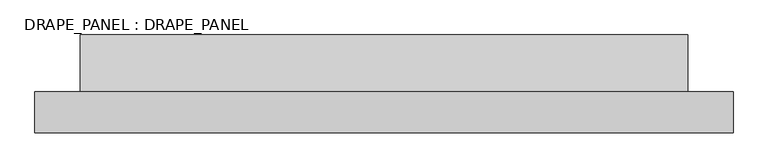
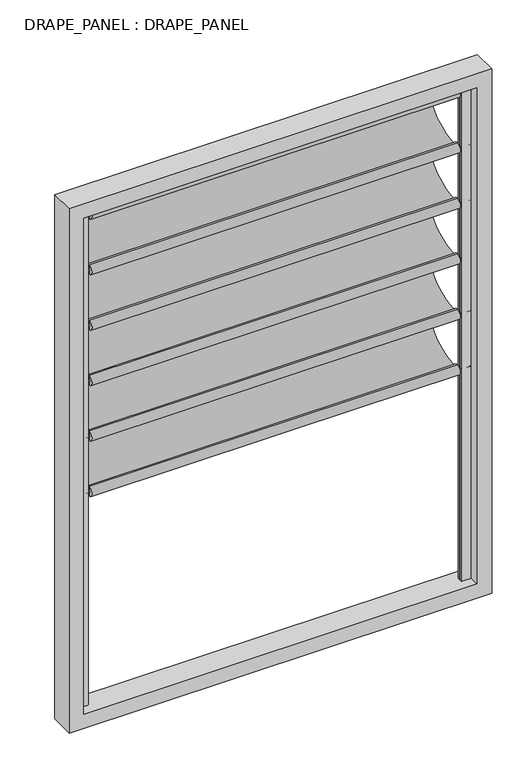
"""IFC4 building model written with IfcOpenShell, lengths in millimetres: plate geometry, DRAPE_PANEL : DRAPE_PANEL."""

import ifcopenshell
import ifcopenshell.guid

model = None  # the IFC model being written
_history = None  # IfcOwnerHistory: only IFC2X3 demands one
_inside = {}  # id of a spatial element -> (the spatial element, [elements in it])
_under = {}  # id of a project, library or spatial element -> (it, [spatial elements below it])
_declared = {}  # id of a project -> (the project, [libraries it declares])
_typed = {}  # id of a type object -> (the type object, [elements of that type])
_made_of = {}  # id of a material, layer set ... -> (it, [elements and type objects made of it])


def new_model(schema):
    """Start an empty IFC model of exactly this schema.

    Asked for "IFC4X3", IfcOpenShell would pick the latest addendum, in which some entities
    have other attributes; the version numbers below select the first issue.
    IFC2X3 requires an IfcOwnerHistory on every rooted entity: one is made here for all.
    """
    global model, _history
    if schema == "IFC4X3":
        model = ifcopenshell.file(schema_version=(4, 3, 0, 0))
    else:
        model = ifcopenshell.file(schema=schema)
    _inside.clear()
    _under.clear()
    _declared.clear()
    _typed.clear()
    _made_of.clear()
    _history = None
    if model.schema == "IFC2X3":
        org = make("IfcOrganization", Name="unknown")
        user = make(
            "IfcPersonAndOrganization",
            ThePerson=make("IfcPerson", FamilyName="unknown"),
            TheOrganization=org,
        )
        app = make(
            "IfcApplication",
            ApplicationDeveloper=org,
            Version="unknown",
            ApplicationFullName="unknown",
            ApplicationIdentifier="unknown",
        )
        _history = make(
            "IfcOwnerHistory",
            OwningUser=user,
            OwningApplication=app,
            ChangeAction="ADDED",
            CreationDate=0,
        )
    return model


def make(cls, **values):
    """One entity of the class cls with the attributes given. An attribute that is None is left unset."""
    return model.create_entity(
        cls, **{name: value for name, value in values.items() if value is not None}
    )


def rooted(cls, **values):
    """An entity with a GlobalId (a new one), such as an element, a storey or a relation."""
    return make(cls, GlobalId=ifcopenshell.guid.new(), OwnerHistory=_history, **values)


def si_unit(unit_type, name, prefix=None):
    """IfcSIUnit, for example si_unit("LENGTHUNIT", "METRE", prefix="MILLI")."""
    return make("IfcSIUnit", UnitType=unit_type, Prefix=prefix, Name=name)


def assignment(units):
    """IfcUnitAssignment: the units of a project."""
    return None if units is None else make("IfcUnitAssignment", Units=units)


def point(xyz):
    """IfcCartesianPoint."""
    return None if xyz is None else make("IfcCartesianPoint", Coordinates=xyz)


def direction(xyz):
    """IfcDirection."""
    return None if xyz is None else make("IfcDirection", DirectionRatios=xyz)


def frame(location, z_axis=None, x_axis=None):
    """IfcAxis2Placement3D, a coordinate frame: its origin and axes. An axis left out is left unset."""
    return make(
        "IfcAxis2Placement3D",
        Location=point(location),
        Axis=direction(z_axis),
        RefDirection=direction(x_axis),
    )


def origin():
    """The frame at (0, 0, 0) with its axes left unset."""
    return frame((0.0, 0.0, 0.0))


def place(relative_to, where):
    """IfcLocalPlacement: puts the frame where relative to a parent placement (None: the world)."""
    return make(
        "IfcLocalPlacement", PlacementRelTo=relative_to, RelativePlacement=where
    )


def context(
    kind, dimensions, precision=None, world=None, true_north=None, identifier=None
):
    """IfcGeometricRepresentationContext, for example the 3D "Model" context."""
    return make(
        "IfcGeometricRepresentationContext",
        ContextIdentifier=identifier,
        ContextType=kind,
        CoordinateSpaceDimension=dimensions,
        Precision=precision,
        WorldCoordinateSystem=world,
        TrueNorth=true_north,
    )


def project(units=None, contexts=None):
    """IfcProject with its units and contexts."""
    return rooted(
        "IfcProject",
        Name="project",
        RepresentationContexts=contexts,
        UnitsInContext=assignment(units),
    )


def spatial(cls, under=None, at=None, **own):
    """A site, building, storey or space (cls), placed at a placement, below another one or the project."""
    s = rooted(cls, ObjectPlacement=at, **own)
    if under is not None:
        _under.setdefault(under.id(), (under, []))[1].append(s)
    return s


def polyline(points):
    """IfcPolyline through the points."""
    return make("IfcPolyline", Points=[point(p) for p in points])


def circle_curve(where, radius):
    """IfcCircle in the frame where."""
    return make("IfcCircle", Position=where, Radius=radius)


def ellipse_curve(where, semi_axis1, semi_axis2):
    """IfcEllipse in the frame where."""
    return make(
        "IfcEllipse", Position=where, SemiAxis1=semi_axis1, SemiAxis2=semi_axis2
    )


def trimmed(basis, trim1, trim2, sense, master):
    """IfcTrimmedCurve: the piece of a basis curve between two trims."""
    return make(
        "IfcTrimmedCurve",
        BasisCurve=basis,
        Trim1=trim1,
        Trim2=trim2,
        SenseAgreement=sense,
        MasterRepresentation=master,
    )


def outline(outer, holes=None, kind="AREA"):
    """IfcArbitraryClosedProfileDef: a profile drawn as a closed curve; with holes, ...WithVoids."""
    if holes is None:
        return make("IfcArbitraryClosedProfileDef", ProfileType=kind, OuterCurve=outer)
    return make(
        "IfcArbitraryProfileDefWithVoids",
        ProfileType=kind,
        OuterCurve=outer,
        InnerCurves=holes,
    )


def extrude(swept, where, along, depth):
    """IfcExtrudedAreaSolid: the profile swept, set in the frame where, extruded along a direction by depth."""
    return make(
        "IfcExtrudedAreaSolid",
        SweptArea=swept,
        Position=where,
        ExtrudedDirection=direction(along),
        Depth=depth,
    )


def shape(context_of_items, identifier, shape_type, items):
    """IfcShapeRepresentation: the items that make up one representation, for example the "Body"."""
    return make(
        "IfcShapeRepresentation",
        ContextOfItems=context_of_items,
        RepresentationIdentifier=identifier,
        RepresentationType=shape_type,
        Items=items,
    )


def source(mapping_origin, context_of_items, identifier, shape_type, items):
    """IfcRepresentationMap: a shape defined once, which mapped items show again and again."""
    return make(
        "IfcRepresentationMap",
        MappingOrigin=mapping_origin,
        MappedRepresentation=shape(context_of_items, identifier, shape_type, items),
    )


def transform(
    local_origin,
    x_axis=None,
    y_axis=None,
    z_axis=None,
    scale=None,
    scale2=None,
    scale3=None,
    uniform=True,
):
    """IfcCartesianTransformationOperator3D, or its non-uniform kind. x_axis, y_axis, z_axis: its Axis1, 2, 3."""
    if uniform:
        return make(
            "IfcCartesianTransformationOperator3D",
            Axis1=direction(x_axis),
            Axis2=direction(y_axis),
            LocalOrigin=point(local_origin),
            Scale=scale,
            Axis3=direction(z_axis),
        )
    return make(
        "IfcCartesianTransformationOperator3DnonUniform",
        Axis1=direction(x_axis),
        Axis2=direction(y_axis),
        LocalOrigin=point(local_origin),
        Scale=scale,
        Axis3=direction(z_axis),
        Scale2=scale2,
        Scale3=scale3,
    )


def mapped(mapping_source, mapping_target):
    """IfcMappedItem: shows the shape of a source again, moved by a transform."""
    return make(
        "IfcMappedItem", MappingSource=mapping_source, MappingTarget=mapping_target
    )


def made_of(thing, what):
    """Note that an element or type object is made of a material, layer set ...; save() writes the relation."""
    if what is not None:
        _made_of.setdefault(what.id(), (what, []))[1].append(thing)
    return thing


def element(
    cls,
    number,
    at=None,
    inside=None,
    cuts=None,
    type_object=None,
    material=None,
    context=None,
    identifier="Body",
    shape_type=None,
    held_by="IfcProductDefinitionShape",
    body=None,
    shapes=None,
    **own,
):
    """One element of the class cls, such as IfcWall. Its Tag is "e" and its number.

    at: its placement. inside: the storey or other place that contains it. cuts: it is an
    opening in that element (IfcRelVoidsElement). A single representation is given by context,
    identifier, shape_type and body (its items); several are given by shapes. held_by: the class
    of the entity that holds the representations. save() writes the other relations.
    """
    e = rooted(cls, Tag="e%d" % number, ObjectPlacement=at, **own)
    if body is not None:
        shapes = [shape(context, identifier, shape_type, body)]
    if shapes is not None:
        e.Representation = make(held_by, Representations=shapes)
    if inside is not None:
        _inside.setdefault(inside.id(), (inside, []))[1].append(e)
    if cuts is not None:
        rooted(
            "IfcRelVoidsElement", RelatingBuildingElement=cuts, RelatedOpeningElement=e
        )
    if type_object is not None:
        _typed.setdefault(type_object.id(), (type_object, []))[1].append(e)
    return made_of(e, material)


def aggregate(whole, parts):
    """IfcRelAggregates: a whole, such as a stair, and the parts it consists of."""
    return rooted("IfcRelAggregates", RelatingObject=whole, RelatedObjects=parts)


def save(model, path):
    """Write the relations noted so far, then the file.

    IfcRelAggregates (storeys below a building ...), IfcRelContainedInSpatialStructure (elements
    in a storey), IfcRelDefinesByType, IfcRelAssociatesMaterial and IfcRelDeclares: one each for
    every whole, place, type object, material and project.
    """
    for whole, parts in _under.values():
        aggregate(whole, parts)
    for where, things in _inside.values():
        rooted(
            "IfcRelContainedInSpatialStructure",
            RelatedElements=things,
            RelatingStructure=where,
        )
    for kind, things in _typed.values():
        rooted("IfcRelDefinesByType", RelatedObjects=things, RelatingType=kind)
    for what, things in _made_of.values():
        rooted("IfcRelAssociatesMaterial", RelatedObjects=things, RelatingMaterial=what)
    for by, libraries in _declared.values():
        rooted("IfcRelDeclares", RelatingContext=by, RelatedDefinitions=libraries)
    model.write(path)


def plane_surface(at):
    """IfcPlane: the flat surface through the origin of the frame at, square to its z axis."""
    return make("IfcPlane", Position=at)


def cylinder_surface(at, radius):
    """IfcCylindricalSurface: all points at the distance radius from the z axis of the frame at."""
    return make("IfcCylindricalSurface", Position=at, Radius=radius)


def extruded_surface(curve, direction_of_extrusion, depth):
    """IfcSurfaceOfLinearExtrusion: the curve pushed along a direction by depth."""
    return make(
        "IfcSurfaceOfLinearExtrusion",
        SweptCurve=make("IfcArbitraryOpenProfileDef", ProfileType="CURVE", Curve=curve),
        ExtrudedDirection=direction(direction_of_extrusion),
        Depth=depth,
    )


def advanced_brep(points, edges, surfaces, faces):
    """IfcAdvancedBrep: a solid bounded by faces that lie on surfaces and meet in shared edges.

    An edge is (start, end): straight between two places in points (the first is 0);
    or (start, end, curve); or (start, end, curve, False) where it runs against its curve.
    A face is (place in surfaces, loops), or (place, loops, False) where it looks against
    its surface's normal. A loop lists edges by number (the first is 1), with a minus sign
    where the edge is run from its end to its start. The first loop is the outer one.
    """
    corners = [point(p) for p in points]
    vertices = [make("IfcVertexPoint", VertexGeometry=c) for c in corners]
    made = []
    for start, end, *more in edges:
        made.append(
            make(
                "IfcEdgeCurve",
                EdgeStart=vertices[start],
                EdgeEnd=vertices[end],
                EdgeGeometry=more[0] if more else make("IfcPolyline", Points=[corners[start], corners[end]]),
                SameSense=more[1] if len(more) > 1 else True,
            )
        )
    hull = []
    for where, loops, *sense in faces:
        bounds = []
        for j, loop in enumerate(loops):
            ring = [make("IfcOrientedEdge", EdgeElement=made[abs(k) - 1], Orientation=k > 0) for k in loop]
            bounds.append(
                make(
                    "IfcFaceOuterBound" if j == 0 else "IfcFaceBound",
                    Bound=make("IfcEdgeLoop", EdgeList=ring),
                    Orientation=True,
                )
            )
        hull.append(make("IfcAdvancedFace", Bounds=bounds, FaceSurface=surfaces[where], SameSense=sense[0] if sense else True))
    return make("IfcAdvancedBrep", Outer=make("IfcClosedShell", CfsFaces=hull))


def drape_panel_drape_panel_99658d57(model_context):
    return source(origin(), model_context, "Body", "SolidModel", [
        advanced_brep(
        [(-790.0, 0.0, 1431.5019792), (-790.0, 0.0, 1436.5019792), (-790.0, 0.0, 1426.5019792), (790.0, 0.0, 1426.5019792), (790.0, 0.0, 1436.5019792), (790.0, 0.0, 1431.5019792), (740.0, 0.0, 1426.5019792), (740.0, 0.0, 1436.5019792), (740.0, 0.0, 1411.5019792), (740.0, 0.0, 1451.5019792), (-740.0, 0.0, 1411.5019792), (-740.0, 0.0, 1451.5019792), (-740.0, 0.0, 1426.5019792), (-740.0, 0.0, 1436.5019792)],
        [
            (0, 1),
            (1, 2, circle_curve(frame((-790.0, 0.0, 1431.5019792), z_axis=(-1.0, 0.0, 0.0), x_axis=(0.0, 0.0, 1.0)), 5.0)),
            (2, 0),
            (2, 1, circle_curve(frame((-790.0, 0.0, 1431.5019792), z_axis=(-1.0, 0.0, 0.0), x_axis=(0.0, 0.0, 1.0)), 5.0)),
            (3, 4, circle_curve(frame((790.0, 0.0, 1431.5019792), z_axis=(1.0, 0.0, 0.0), x_axis=(0.0, 0.0, 1.0)), 5.0)),
            (4, 5),
            (5, 3),
            (4, 3, circle_curve(frame((790.0, 0.0, 1431.5019792), z_axis=(1.0, 0.0, 0.0), x_axis=(0.0, 0.0, 1.0)), 5.0)),
            (6, 7, circle_curve(frame((740.0, 0.0, 1431.5019792), z_axis=(1.0, 0.0, 0.0), x_axis=(0.0, 0.0, 1.0)), 5.0)),
            (7, 4),
            (3, 6),
            (7, 6, circle_curve(frame((740.0, 0.0, 1431.5019792), z_axis=(1.0, 0.0, 0.0), x_axis=(0.0, 0.0, 1.0)), 5.0)),
            (8, 9, circle_curve(frame((740.0, 0.0, 1431.5019792), z_axis=(1.0, 0.0, 0.0), x_axis=(0.0, 0.0, 1.0)), 20.0)),
            (9, 7),
            (6, 8),
            (9, 8, circle_curve(frame((740.0, 0.0, 1431.5019792), z_axis=(1.0, 0.0, 0.0), x_axis=(0.0, 0.0, 1.0)), 20.0)),
            (10, 11, circle_curve(frame((-740.0, 0.0, 1431.5019792), z_axis=(1.0, 0.0, 0.0), x_axis=(0.0, 0.0, 1.0)), 20.0)),
            (11, 9),
            (8, 10),
            (11, 10, circle_curve(frame((-740.0, 0.0, 1431.5019792), z_axis=(1.0, 0.0, 0.0), x_axis=(0.0, 0.0, 1.0)), 20.0)),
            (12, 13, circle_curve(frame((-740.0, 0.0, 1431.5019792), z_axis=(1.0, 0.0, 0.0), x_axis=(0.0, 0.0, 1.0)), 5.0)),
            (13, 11),
            (10, 12),
            (13, 12, circle_curve(frame((-740.0, 0.0, 1431.5019792), z_axis=(1.0, 0.0, 0.0), x_axis=(0.0, 0.0, 1.0)), 5.0)),
            (1, 13),
            (12, 2),
        ],
        [
            plane_surface(frame((-790.0, 0.0, 1431.5019792), z_axis=(-1.0, 0.0, 0.0), x_axis=(0.0, 0.0, 1.0))),
            plane_surface(frame((790.0, 0.0, 1431.5019792), z_axis=(1.0, 0.0, 0.0), x_axis=(0.0, 0.0, 1.0))),
            cylinder_surface(frame((6238.8752301, 0.0, 1431.5019792), z_axis=(-1.0, 0.0, 0.0), x_axis=(0.0, 0.0, 1.0)), 5.0),
            plane_surface(frame((740.0, 0.0, 1431.5019792), z_axis=(1.0, 0.0, 0.0), x_axis=(0.0, 0.0, 1.0))),
            cylinder_surface(frame((6238.8752301, 0.0, 1431.5019792), z_axis=(-1.0, 0.0, 0.0), x_axis=(0.0, 0.0, 1.0)), 20.0),
            plane_surface(frame((-740.0, 0.0, 1431.5019792), z_axis=(-1.0, 0.0, 0.0), x_axis=(0.0, 0.0, 1.0))),
        ],
        [
            (0, [[1, 2, 3]]),
            (0, [[-3, 4, -1]]),
            (1, [[5, 6, 7]]),
            (1, [[8, -7, -6]]),
            (2, [[9, 10, -5, 11]]),
            (2, [[12, -11, -8, -10]]),
            (3, [[13, 14, -9, 15]]),
            (3, [[16, -15, -12, -14]]),
            (4, [[17, 18, -13, 19]]),
            (4, [[20, -19, -16, -18]]),
            (5, [[21, 22, -17, 23]]),
            (5, [[24, -23, -20, -22]]),
            (2, [[-2, 25, -21, 26]]),
            (2, [[-4, -26, -24, -25]]),
        ],
    ),
        advanced_brep(
        [(740.0, 0.0, 1431.5019792), (740.0, 0.0, 1428.5019792), (740.0, 0.0, 1198.7509896), (740.0, 0.0, 1195.7509896), (-740.0, 0.0, 1431.5019792), (-740.0, 0.0, 1195.7509896), (-740.0, 0.0, 1198.7509896), (-740.0, 0.0, 1428.5019792)],
        [
            (0, 1),
            (1, 2, ellipse_curve(frame((740.0, 0.0, 1313.6264844), z_axis=(-1.0, 0.0, 0.0), x_axis=(0.0, -1.0, 0.0)), 186.0273468, 114.8754948)),
            (2, 3),
            (3, 0, ellipse_curve(frame((740.0, 0.0, 1313.6264844), z_axis=(1.0, 0.0, 0.0), x_axis=(0.0, 1.0, 0.0)), 189.0273468, 117.8754948)),
            (4, 5, ellipse_curve(frame((-740.0, 0.0, 1313.6264844), z_axis=(-1.0, 0.0, 0.0), x_axis=(0.0, 0.0, -1.0)), 117.8754948, 189.0273468)),
            (5, 6),
            (6, 7, ellipse_curve(frame((-740.0, 0.0, 1313.6264844), z_axis=(1.0, 0.0, 0.0), x_axis=(0.0, 0.0, -1.0)), 114.8754948, 186.0273468)),
            (7, 4),
            (0, 4),
            (7, 1),
            (6, 2),
            (5, 3),
        ],
        [
            plane_surface(frame((740.0, 0.0, 1431.5019792), z_axis=(1.0, 0.0, 0.0), x_axis=(0.0, -1.4831486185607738e-12, -1.0))),
            plane_surface(frame((-740.0, 0.0, 1431.5019792), z_axis=(-1.0, 0.0, 0.0), x_axis=(0.0, 1.4831486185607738e-12, 1.0))),
            plane_surface(frame((740.0, 0.0, 1431.5019792), z_axis=(0.0, -1.0, 1.4831486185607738e-12), x_axis=(-1.0, 0.0, 0.0))),
            extruded_surface(trimmed(ellipse_curve(frame((-2220.0, 0.0, 1313.6264844), z_axis=(-1.0, 0.0, 0.0), x_axis=(0.0, 0.0, -1.0)), 114.8754948, 186.0273468), [point((-2220.0, 0.0, 1428.5019792))], [point((-2220.0, 0.0, 1198.7509896))], True, "CARTESIAN"), (1480.0, 0.0, 0.0), 1480.0),
            plane_surface(frame((740.0, 0.0, 1198.7509896), z_axis=(0.0, -1.0, 0.0), x_axis=(-1.0, 0.0, 0.0))),
            extruded_surface(trimmed(ellipse_curve(frame((-2220.0, 0.0, 1313.6264844), z_axis=(1.0, 0.0, 0.0), x_axis=(0.0, 0.0, -1.0)), 117.8754948, 189.0273468), [point((-2220.0, 0.0, 1195.7509896))], [point((-2220.0, 0.0, 1431.5019792))], True, "CARTESIAN"), (1480.0, 0.0, 0.0), 1480.0),
        ],
        [
            (0, [[1, 2, 3, 4]]),
            (1, [[5, 6, 7, 8]]),
            (2, [[-1, 9, -8, 10]]),
            (3, [[-2, -10, -7, 11]]),
            (4, [[-3, -11, -6, 12]]),
            (5, [[-4, -12, -5, -9]]),
        ],
    ),
        advanced_brep(
        [(-790.0, 0.0, 1667.2529688), (-790.0, 0.0, 1672.2529688), (-790.0, 0.0, 1662.2529688), (790.0, 0.0, 1662.2529688), (790.0, 0.0, 1672.2529688), (790.0, 0.0, 1667.2529688), (740.0, 0.0, 1662.2529688), (740.0, 0.0, 1672.2529688), (740.0, 0.0, 1647.2529688), (740.0, 0.0, 1687.2529688), (-740.0, 0.0, 1647.2529688), (-740.0, 0.0, 1687.2529688), (-740.0, 0.0, 1662.2529688), (-740.0, 0.0, 1672.2529688)],
        [
            (0, 1),
            (1, 2, circle_curve(frame((-790.0, 0.0, 1667.2529688), z_axis=(-1.0, 0.0, 0.0), x_axis=(0.0, 0.0, 1.0)), 5.0)),
            (2, 0),
            (2, 1, circle_curve(frame((-790.0, 0.0, 1667.2529688), z_axis=(-1.0, 0.0, 0.0), x_axis=(0.0, 0.0, 1.0)), 5.0)),
            (3, 4, circle_curve(frame((790.0, 0.0, 1667.2529688), z_axis=(1.0, 0.0, 0.0), x_axis=(0.0, 0.0, 1.0)), 5.0)),
            (4, 5),
            (5, 3),
            (4, 3, circle_curve(frame((790.0, 0.0, 1667.2529688), z_axis=(1.0, 0.0, 0.0), x_axis=(0.0, 0.0, 1.0)), 5.0)),
            (6, 7, circle_curve(frame((740.0, 0.0, 1667.2529688), z_axis=(1.0, 0.0, 0.0), x_axis=(0.0, 0.0, 1.0)), 5.0)),
            (7, 4),
            (3, 6),
            (7, 6, circle_curve(frame((740.0, 0.0, 1667.2529688), z_axis=(1.0, 0.0, 0.0), x_axis=(0.0, 0.0, 1.0)), 5.0)),
            (8, 9, circle_curve(frame((740.0, 0.0, 1667.2529688), z_axis=(1.0, 0.0, 0.0), x_axis=(0.0, 0.0, 1.0)), 20.0)),
            (9, 7),
            (6, 8),
            (9, 8, circle_curve(frame((740.0, 0.0, 1667.2529688), z_axis=(1.0, 0.0, 0.0), x_axis=(0.0, 0.0, 1.0)), 20.0)),
            (10, 11, circle_curve(frame((-740.0, 0.0, 1667.2529688), z_axis=(1.0, 0.0, 0.0), x_axis=(0.0, 0.0, 1.0)), 20.0)),
            (11, 9),
            (8, 10),
            (11, 10, circle_curve(frame((-740.0, 0.0, 1667.2529688), z_axis=(1.0, 0.0, 0.0), x_axis=(0.0, 0.0, 1.0)), 20.0)),
            (12, 13, circle_curve(frame((-740.0, 0.0, 1667.2529688), z_axis=(1.0, 0.0, 0.0), x_axis=(0.0, 0.0, 1.0)), 5.0)),
            (13, 11),
            (10, 12),
            (13, 12, circle_curve(frame((-740.0, 0.0, 1667.2529688), z_axis=(1.0, 0.0, 0.0), x_axis=(0.0, 0.0, 1.0)), 5.0)),
            (1, 13),
            (12, 2),
        ],
        [
            plane_surface(frame((-790.0, 0.0, 1667.2529688), z_axis=(-1.0, 0.0, 0.0), x_axis=(0.0, 0.0, 1.0))),
            plane_surface(frame((790.0, 0.0, 1667.2529688), z_axis=(1.0, 0.0, 0.0), x_axis=(0.0, 0.0, 1.0))),
            cylinder_surface(frame((6238.8752301, 0.0, 1667.2529688), z_axis=(-1.0, 0.0, 0.0), x_axis=(0.0, 0.0, 1.0)), 5.0),
            plane_surface(frame((740.0, 0.0, 1667.2529688), z_axis=(1.0, 0.0, 0.0), x_axis=(0.0, 0.0, 1.0))),
            cylinder_surface(frame((6238.8752301, 0.0, 1667.2529688), z_axis=(-1.0, 0.0, 0.0), x_axis=(0.0, 0.0, 1.0)), 20.0),
            plane_surface(frame((-740.0, 0.0, 1667.2529688), z_axis=(-1.0, 0.0, 0.0), x_axis=(0.0, 0.0, 1.0))),
        ],
        [
            (0, [[1, 2, 3]]),
            (0, [[-3, 4, -1]]),
            (1, [[5, 6, 7]]),
            (1, [[8, -7, -6]]),
            (2, [[9, 10, -5, 11]]),
            (2, [[12, -11, -8, -10]]),
            (3, [[13, 14, -9, 15]]),
            (3, [[16, -15, -12, -14]]),
            (4, [[17, 18, -13, 19]]),
            (4, [[20, -19, -16, -18]]),
            (5, [[21, 22, -17, 23]]),
            (5, [[24, -23, -20, -22]]),
            (2, [[-2, 25, -21, 26]]),
            (2, [[-4, -26, -24, -25]]),
        ],
    ),
        advanced_brep(
        [(740.0, 0.0, 1667.2529688), (740.0, 0.0, 1664.2529688), (740.0, 0.0, 1434.5019792), (740.0, 0.0, 1431.5019792), (-740.0, 0.0, 1667.2529688), (-740.0, 0.0, 1431.5019792), (-740.0, 0.0, 1434.5019792), (-740.0, 0.0, 1664.2529688)],
        [
            (0, 1),
            (1, 2, ellipse_curve(frame((740.0, 0.0, 1549.377474), z_axis=(-1.0, 0.0, 0.0), x_axis=(0.0, -1.0, 0.0)), 186.0273468, 114.8754948)),
            (2, 3),
            (3, 0, ellipse_curve(frame((740.0, 0.0, 1549.377474), z_axis=(1.0, 0.0, 0.0), x_axis=(0.0, 1.0, 0.0)), 189.0273468, 117.8754948)),
            (4, 5, ellipse_curve(frame((-740.0, 0.0, 1549.377474), z_axis=(-1.0, 0.0, 0.0), x_axis=(0.0, 0.0, -1.0)), 117.8754948, 189.0273468)),
            (5, 6),
            (6, 7, ellipse_curve(frame((-740.0, 0.0, 1549.377474), z_axis=(1.0, 0.0, 0.0), x_axis=(0.0, 0.0, -1.0)), 114.8754948, 186.0273468)),
            (7, 4),
            (0, 4),
            (7, 1),
            (6, 2),
            (5, 3),
        ],
        [
            plane_surface(frame((740.0, 0.0, 1667.2529688), z_axis=(1.0, 0.0, 0.0), x_axis=(0.0, -1.4831486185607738e-12, -1.0))),
            plane_surface(frame((-740.0, 0.0, 1667.2529688), z_axis=(-1.0, 0.0, 0.0), x_axis=(0.0, 1.4831486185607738e-12, 1.0))),
            plane_surface(frame((740.0, 0.0, 1667.2529688), z_axis=(0.0, -1.0, 1.4831486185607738e-12), x_axis=(-1.0, 0.0, 0.0))),
            extruded_surface(trimmed(ellipse_curve(frame((-2220.0, 0.0, 1549.377474), z_axis=(-1.0, 0.0, 0.0), x_axis=(0.0, 0.0, -1.0)), 114.8754948, 186.0273468), [point((-2220.0, 0.0, 1664.2529688))], [point((-2220.0, 0.0, 1434.5019792))], True, "CARTESIAN"), (1480.0, 0.0, 0.0), 1480.0),
            plane_surface(frame((740.0, 0.0, 1434.5019792), z_axis=(0.0, -1.0, 0.0), x_axis=(-1.0, 0.0, 0.0))),
            extruded_surface(trimmed(ellipse_curve(frame((-2220.0, 0.0, 1549.377474), z_axis=(1.0, 0.0, 0.0), x_axis=(0.0, 0.0, -1.0)), 117.8754948, 189.0273468), [point((-2220.0, 0.0, 1431.5019792))], [point((-2220.0, 0.0, 1667.2529688))], True, "CARTESIAN"), (1480.0, 0.0, 0.0), 1480.0),
        ],
        [
            (0, [[1, 2, 3, 4]]),
            (1, [[5, 6, 7, 8]]),
            (2, [[-1, 9, -8, 10]]),
            (3, [[-2, -10, -7, 11]]),
            (4, [[-3, -11, -6, 12]]),
            (5, [[-4, -12, -5, -9]]),
        ],
    ),
        advanced_brep(
        [(-790.0, 0.0, 1903.0039583), (-790.0, 0.0, 1908.0039583), (-790.0, 0.0, 1898.0039583), (790.0, 0.0, 1898.0039583), (790.0, 0.0, 1908.0039583), (790.0, 0.0, 1903.0039583), (740.0, 0.0, 1898.0039583), (740.0, 0.0, 1908.0039583), (740.0, 0.0, 1883.0039583), (740.0, 0.0, 1923.0039583), (-740.0, 0.0, 1883.0039583), (-740.0, 0.0, 1923.0039583), (-740.0, 0.0, 1898.0039583), (-740.0, 0.0, 1908.0039583)],
        [
            (0, 1),
            (1, 2, circle_curve(frame((-790.0, 0.0, 1903.0039583), z_axis=(-1.0, 0.0, 0.0), x_axis=(0.0, 0.0, 1.0)), 5.0)),
            (2, 0),
            (2, 1, circle_curve(frame((-790.0, 0.0, 1903.0039583), z_axis=(-1.0, 0.0, 0.0), x_axis=(0.0, 0.0, 1.0)), 5.0)),
            (3, 4, circle_curve(frame((790.0, 0.0, 1903.0039583), z_axis=(1.0, 0.0, 0.0), x_axis=(0.0, 0.0, 1.0)), 5.0)),
            (4, 5),
            (5, 3),
            (4, 3, circle_curve(frame((790.0, 0.0, 1903.0039583), z_axis=(1.0, 0.0, 0.0), x_axis=(0.0, 0.0, 1.0)), 5.0)),
            (6, 7, circle_curve(frame((740.0, 0.0, 1903.0039583), z_axis=(1.0, 0.0, 0.0), x_axis=(0.0, 0.0, 1.0)), 5.0)),
            (7, 4),
            (3, 6),
            (7, 6, circle_curve(frame((740.0, 0.0, 1903.0039583), z_axis=(1.0, 0.0, 0.0), x_axis=(0.0, 0.0, 1.0)), 5.0)),
            (8, 9, circle_curve(frame((740.0, 0.0, 1903.0039583), z_axis=(1.0, 0.0, 0.0), x_axis=(0.0, 0.0, 1.0)), 20.0)),
            (9, 7),
            (6, 8),
            (9, 8, circle_curve(frame((740.0, 0.0, 1903.0039583), z_axis=(1.0, 0.0, 0.0), x_axis=(0.0, 0.0, 1.0)), 20.0)),
            (10, 11, circle_curve(frame((-740.0, 0.0, 1903.0039583), z_axis=(1.0, 0.0, 0.0), x_axis=(0.0, 0.0, 1.0)), 20.0)),
            (11, 9),
            (8, 10),
            (11, 10, circle_curve(frame((-740.0, 0.0, 1903.0039583), z_axis=(1.0, 0.0, 0.0), x_axis=(0.0, 0.0, 1.0)), 20.0)),
            (12, 13, circle_curve(frame((-740.0, 0.0, 1903.0039583), z_axis=(1.0, 0.0, 0.0), x_axis=(0.0, 0.0, 1.0)), 5.0)),
            (13, 11),
            (10, 12),
            (13, 12, circle_curve(frame((-740.0, 0.0, 1903.0039583), z_axis=(1.0, 0.0, 0.0), x_axis=(0.0, 0.0, 1.0)), 5.0)),
            (1, 13),
            (12, 2),
        ],
        [
            plane_surface(frame((-790.0, 0.0, 1903.0039583), z_axis=(-1.0, 0.0, 0.0), x_axis=(0.0, 0.0, 1.0))),
            plane_surface(frame((790.0, 0.0, 1903.0039583), z_axis=(1.0, 0.0, 0.0), x_axis=(0.0, 0.0, 1.0))),
            cylinder_surface(frame((6238.8752301, 0.0, 1903.0039583), z_axis=(-1.0, 0.0, 0.0), x_axis=(0.0, 0.0, 1.0)), 5.0),
            plane_surface(frame((740.0, 0.0, 1903.0039583), z_axis=(1.0, 0.0, 0.0), x_axis=(0.0, 0.0, 1.0))),
            cylinder_surface(frame((6238.8752301, 0.0, 1903.0039583), z_axis=(-1.0, 0.0, 0.0), x_axis=(0.0, 0.0, 1.0)), 20.0),
            plane_surface(frame((-740.0, 0.0, 1903.0039583), z_axis=(-1.0, 0.0, 0.0), x_axis=(0.0, 0.0, 1.0))),
        ],
        [
            (0, [[1, 2, 3]]),
            (0, [[-3, 4, -1]]),
            (1, [[5, 6, 7]]),
            (1, [[8, -7, -6]]),
            (2, [[9, 10, -5, 11]]),
            (2, [[12, -11, -8, -10]]),
            (3, [[13, 14, -9, 15]]),
            (3, [[16, -15, -12, -14]]),
            (4, [[17, 18, -13, 19]]),
            (4, [[20, -19, -16, -18]]),
            (5, [[21, 22, -17, 23]]),
            (5, [[24, -23, -20, -22]]),
            (2, [[-2, 25, -21, 26]]),
            (2, [[-4, -26, -24, -25]]),
        ],
    ),
        advanced_brep(
        [(740.0, 0.0, 1903.0039583), (740.0, 0.0, 1900.0039583), (740.0, 0.0, 1670.2529688), (740.0, 0.0, 1667.2529688), (-740.0, 0.0, 1903.0039583), (-740.0, 0.0, 1667.2529688), (-740.0, 0.0, 1670.2529687), (-740.0, 0.0, 1900.0039583)],
        [
            (0, 1),
            (1, 2, ellipse_curve(frame((740.0, 0.0, 1785.1284635), z_axis=(-1.0, 0.0, 0.0), x_axis=(0.0, -1.0, 0.0)), 186.0273468, 114.8754948)),
            (2, 3),
            (3, 0, ellipse_curve(frame((740.0, 0.0, 1785.1284635), z_axis=(1.0, 0.0, 0.0), x_axis=(0.0, 1.0, 0.0)), 189.0273468, 117.8754948)),
            (4, 5, ellipse_curve(frame((-740.0, 0.0, 1785.1284635), z_axis=(-1.0, 0.0, 0.0), x_axis=(0.0, 0.0, -1.0)), 117.8754948, 189.0273468)),
            (5, 6),
            (6, 7, ellipse_curve(frame((-740.0, 0.0, 1785.1284635), z_axis=(1.0, 0.0, 0.0), x_axis=(0.0, 0.0, -1.0)), 114.8754948, 186.0273468)),
            (7, 4),
            (0, 4),
            (7, 1),
            (6, 2),
            (5, 3),
        ],
        [
            plane_surface(frame((740.0, 0.0, 1903.0039583), z_axis=(1.0, 0.0, 0.0), x_axis=(0.0, -1.4831486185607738e-12, -1.0))),
            plane_surface(frame((-740.0, 0.0, 1903.0039583), z_axis=(-1.0, 0.0, 0.0), x_axis=(0.0, 1.4831486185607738e-12, 1.0))),
            plane_surface(frame((740.0, 0.0, 1903.0039583), z_axis=(0.0, -1.0, 1.4831486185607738e-12), x_axis=(-1.0, 0.0, 0.0))),
            extruded_surface(trimmed(ellipse_curve(frame((-2220.0, 0.0, 1785.1284635), z_axis=(-1.0, 0.0, 0.0), x_axis=(0.0, 0.0, -1.0)), 114.8754948, 186.0273468), [point((-2220.0, 0.0, 1900.0039583))], [point((-2220.0, 0.0, 1670.2529687))], True, "CARTESIAN"), (1480.0, 0.0, 0.0), 1480.0),
            plane_surface(frame((740.0, 0.0, 1670.2529688), z_axis=(0.0, -1.0, 0.0), x_axis=(-1.0, 0.0, 0.0))),
            extruded_surface(trimmed(ellipse_curve(frame((-2220.0, 0.0, 1785.1284635), z_axis=(1.0, 0.0, 0.0), x_axis=(0.0, 0.0, -1.0)), 117.8754948, 189.0273468), [point((-2220.0, 0.0, 1667.2529688))], [point((-2220.0, 0.0, 1903.0039583))], True, "CARTESIAN"), (1480.0, 0.0, 0.0), 1480.0),
        ],
        [
            (0, [[1, 2, 3, 4]]),
            (1, [[5, 6, 7, 8]]),
            (2, [[-1, 9, -8, 10]]),
            (3, [[-2, -10, -7, 11]]),
            (4, [[-3, -11, -6, 12]]),
            (5, [[-4, -12, -5, -9]]),
        ],
    ),
        advanced_brep(
        [(-790.0, 0.0, 1195.7509896), (-790.0, 0.0, 1200.7509896), (-790.0, 0.0, 1190.7509896), (790.0, 0.0, 1190.7509896), (790.0, 0.0, 1200.7509896), (790.0, 0.0, 1195.7509896), (740.0, 0.0, 1190.7509896), (740.0, 0.0, 1200.7509896), (740.0, 0.0, 1175.7509896), (740.0, 0.0, 1215.7509896), (-740.0, 0.0, 1175.7509896), (-740.0, 0.0, 1215.7509896), (-740.0, 0.0, 1190.7509896), (-740.0, 0.0, 1200.7509896)],
        [
            (0, 1),
            (1, 2, circle_curve(frame((-790.0, 0.0, 1195.7509896), z_axis=(-1.0, 0.0, 0.0), x_axis=(0.0, 0.0, 1.0)), 5.0)),
            (2, 0),
            (2, 1, circle_curve(frame((-790.0, 0.0, 1195.7509896), z_axis=(-1.0, 0.0, 0.0), x_axis=(0.0, 0.0, 1.0)), 5.0)),
            (3, 4, circle_curve(frame((790.0, 0.0, 1195.7509896), z_axis=(1.0, 0.0, 0.0), x_axis=(0.0, 0.0, 1.0)), 5.0)),
            (4, 5),
            (5, 3),
            (4, 3, circle_curve(frame((790.0, 0.0, 1195.7509896), z_axis=(1.0, 0.0, 0.0), x_axis=(0.0, 0.0, 1.0)), 5.0)),
            (6, 7, circle_curve(frame((740.0, 0.0, 1195.7509896), z_axis=(1.0, 0.0, 0.0), x_axis=(0.0, 0.0, 1.0)), 5.0)),
            (7, 4),
            (3, 6),
            (7, 6, circle_curve(frame((740.0, 0.0, 1195.7509896), z_axis=(1.0, 0.0, 0.0), x_axis=(0.0, 0.0, 1.0)), 5.0)),
            (8, 9, circle_curve(frame((740.0, 0.0, 1195.7509896), z_axis=(1.0, 0.0, 0.0), x_axis=(0.0, 0.0, 1.0)), 20.0)),
            (9, 7),
            (6, 8),
            (9, 8, circle_curve(frame((740.0, 0.0, 1195.7509896), z_axis=(1.0, 0.0, 0.0), x_axis=(0.0, 0.0, 1.0)), 20.0)),
            (10, 11, circle_curve(frame((-740.0, 0.0, 1195.7509896), z_axis=(1.0, 0.0, 0.0), x_axis=(0.0, 0.0, 1.0)), 20.0)),
            (11, 9),
            (8, 10),
            (11, 10, circle_curve(frame((-740.0, 0.0, 1195.7509896), z_axis=(1.0, 0.0, 0.0), x_axis=(0.0, 0.0, 1.0)), 20.0)),
            (12, 13, circle_curve(frame((-740.0, 0.0, 1195.7509896), z_axis=(1.0, 0.0, 0.0), x_axis=(0.0, 0.0, 1.0)), 5.0)),
            (13, 11),
            (10, 12),
            (13, 12, circle_curve(frame((-740.0, 0.0, 1195.7509896), z_axis=(1.0, 0.0, 0.0), x_axis=(0.0, 0.0, 1.0)), 5.0)),
            (1, 13),
            (12, 2),
        ],
        [
            plane_surface(frame((-790.0, 0.0, 1195.7509896), z_axis=(-1.0, 0.0, 0.0), x_axis=(0.0, 0.0, 1.0))),
            plane_surface(frame((790.0, 0.0, 1195.7509896), z_axis=(1.0, 0.0, 0.0), x_axis=(0.0, 0.0, 1.0))),
            cylinder_surface(frame((6238.8752301, 0.0, 1195.7509896), z_axis=(-1.0, 0.0, 0.0), x_axis=(0.0, 0.0, 1.0)), 5.0),
            plane_surface(frame((740.0, 0.0, 1195.7509896), z_axis=(1.0, 0.0, 0.0), x_axis=(0.0, 0.0, 1.0))),
            cylinder_surface(frame((6238.8752301, 0.0, 1195.7509896), z_axis=(-1.0, 0.0, 0.0), x_axis=(0.0, 0.0, 1.0)), 20.0),
            plane_surface(frame((-740.0, 0.0, 1195.7509896), z_axis=(-1.0, 0.0, 0.0), x_axis=(0.0, 0.0, 1.0))),
        ],
        [
            (0, [[1, 2, 3]]),
            (0, [[-3, 4, -1]]),
            (1, [[5, 6, 7]]),
            (1, [[8, -7, -6]]),
            (2, [[9, 10, -5, 11]]),
            (2, [[12, -11, -8, -10]]),
            (3, [[13, 14, -9, 15]]),
            (3, [[16, -15, -12, -14]]),
            (4, [[17, 18, -13, 19]]),
            (4, [[20, -19, -16, -18]]),
            (5, [[21, 22, -17, 23]]),
            (5, [[24, -23, -20, -22]]),
            (2, [[-2, 25, -21, 26]]),
            (2, [[-4, -26, -24, -25]]),
        ],
    ),
        advanced_brep(
        [(740.0, 0.0, 1195.7509896), (740.0, 0.0, 1192.7509896), (740.0, 0.0, 963.0), (740.0, 0.0, 960.0), (-740.0, 0.0, 1195.7509896), (-740.0, 0.0, 960.0), (-740.0, 0.0, 963.0), (-740.0, 0.0, 1192.7509896)],
        [
            (0, 1),
            (1, 2, ellipse_curve(frame((740.0, 0.0, 1077.8754948), z_axis=(-1.0, 0.0, 0.0), x_axis=(0.0, -1.0, 0.0)), 186.0273468, 114.8754948)),
            (2, 3),
            (3, 0, ellipse_curve(frame((740.0, 0.0, 1077.8754948), z_axis=(1.0, 0.0, 0.0), x_axis=(0.0, 1.0, 0.0)), 189.0273468, 117.8754948)),
            (4, 5, ellipse_curve(frame((-740.0, 0.0, 1077.8754948), z_axis=(-1.0, 0.0, 0.0), x_axis=(0.0, 0.0, -1.0)), 117.8754948, 189.0273468)),
            (5, 6),
            (6, 7, ellipse_curve(frame((-740.0, 0.0, 1077.8754948), z_axis=(1.0, 0.0, 0.0), x_axis=(0.0, 0.0, -1.0)), 114.8754948, 186.0273468)),
            (7, 4),
            (0, 4),
            (7, 1),
            (6, 2),
            (5, 3),
        ],
        [
            plane_surface(frame((740.0, 0.0, 1195.7509896), z_axis=(1.0, 0.0, 0.0), x_axis=(0.0, -1.4831486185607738e-12, -1.0))),
            plane_surface(frame((-740.0, 0.0, 1195.7509896), z_axis=(-1.0, 0.0, 0.0), x_axis=(0.0, 1.4831486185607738e-12, 1.0))),
            plane_surface(frame((740.0, 0.0, 1195.7509896), z_axis=(0.0, -1.0, 1.4831486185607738e-12), x_axis=(-1.0, 0.0, 0.0))),
            extruded_surface(trimmed(ellipse_curve(frame((-2220.0, 0.0, 1077.8754948), z_axis=(-1.0, 0.0, 0.0), x_axis=(0.0, 0.0, -1.0)), 114.8754948, 186.0273468), [point((-2220.0, 0.0, 1192.7509896))], [point((-2220.0, 0.0, 963.0))], True, "CARTESIAN"), (1480.0, 0.0, 0.0), 1480.0),
            plane_surface(frame((740.0, 0.0, 963.0), z_axis=(0.0, -1.0, 0.0), x_axis=(-1.0, 0.0, 0.0))),
            extruded_surface(trimmed(ellipse_curve(frame((-2220.0, 0.0, 1077.8754948), z_axis=(1.0, 0.0, 0.0), x_axis=(0.0, 0.0, -1.0)), 117.8754948, 189.0273468), [point((-2220.0, 0.0, 960.0))], [point((-2220.0, 0.0, 1195.7509896))], True, "CARTESIAN"), (1480.0, 0.0, 0.0), 1480.0),
        ],
        [
            (0, [[1, 2, 3, 4]]),
            (1, [[5, 6, 7, 8]]),
            (2, [[-1, 9, -8, 10]]),
            (3, [[-2, -10, -7, 11]]),
            (4, [[-3, -11, -6, 12]]),
            (5, [[-4, -12, -5, -9]]),
        ],
    ),
        advanced_brep(
        [(-790.0, 0.0, 2138.7549479), (-790.0, 0.0, 2143.7549479), (-790.0, 0.0, 2133.7549479), (790.0, 0.0, 2133.7549479), (790.0, 0.0, 2143.7549479), (790.0, 0.0, 2138.7549479), (740.0, 0.0, 2133.7549479), (740.0, 0.0, 2143.7549479), (740.0, 0.0, 2118.7549479), (740.0, 0.0, 2158.7549479), (-740.0, 0.0, 2118.7549479), (-740.0, 0.0, 2158.7549479), (-740.0, 0.0, 2133.7549479), (-740.0, 0.0, 2143.7549479)],
        [
            (0, 1),
            (1, 2, circle_curve(frame((-790.0, 0.0, 2138.7549479), z_axis=(-1.0, 0.0, 0.0), x_axis=(0.0, 0.0, 1.0)), 5.0)),
            (2, 0),
            (2, 1, circle_curve(frame((-790.0, 0.0, 2138.7549479), z_axis=(-1.0, 0.0, 0.0), x_axis=(0.0, 0.0, 1.0)), 5.0)),
            (3, 4, circle_curve(frame((790.0, 0.0, 2138.7549479), z_axis=(1.0, 0.0, 0.0), x_axis=(0.0, 0.0, 1.0)), 5.0)),
            (4, 5),
            (5, 3),
            (4, 3, circle_curve(frame((790.0, 0.0, 2138.7549479), z_axis=(1.0, 0.0, 0.0), x_axis=(0.0, 0.0, 1.0)), 5.0)),
            (6, 7, circle_curve(frame((740.0, 0.0, 2138.7549479), z_axis=(1.0, 0.0, 0.0), x_axis=(0.0, 0.0, 1.0)), 5.0)),
            (7, 4),
            (3, 6),
            (7, 6, circle_curve(frame((740.0, 0.0, 2138.7549479), z_axis=(1.0, 0.0, 0.0), x_axis=(0.0, 0.0, 1.0)), 5.0)),
            (8, 9, circle_curve(frame((740.0, 0.0, 2138.7549479), z_axis=(1.0, 0.0, 0.0), x_axis=(0.0, 0.0, 1.0)), 20.0)),
            (9, 7),
            (6, 8),
            (9, 8, circle_curve(frame((740.0, 0.0, 2138.7549479), z_axis=(1.0, 0.0, 0.0), x_axis=(0.0, 0.0, 1.0)), 20.0)),
            (10, 11, circle_curve(frame((-740.0, 0.0, 2138.7549479), z_axis=(1.0, 0.0, 0.0), x_axis=(0.0, 0.0, 1.0)), 20.0)),
            (11, 9),
            (8, 10),
            (11, 10, circle_curve(frame((-740.0, 0.0, 2138.7549479), z_axis=(1.0, 0.0, 0.0), x_axis=(0.0, 0.0, 1.0)), 20.0)),
            (12, 13, circle_curve(frame((-740.0, 0.0, 2138.7549479), z_axis=(1.0, 0.0, 0.0), x_axis=(0.0, 0.0, 1.0)), 5.0)),
            (13, 11),
            (10, 12),
            (13, 12, circle_curve(frame((-740.0, 0.0, 2138.7549479), z_axis=(1.0, 0.0, 0.0), x_axis=(0.0, 0.0, 1.0)), 5.0)),
            (1, 13),
            (12, 2),
        ],
        [
            plane_surface(frame((-790.0, 0.0, 2138.7549479), z_axis=(-1.0, 0.0, 0.0), x_axis=(0.0, 0.0, 1.0))),
            plane_surface(frame((790.0, 0.0, 2138.7549479), z_axis=(1.0, 0.0, 0.0), x_axis=(0.0, 0.0, 1.0))),
            cylinder_surface(frame((6238.8752301, 0.0, 2138.7549479), z_axis=(-1.0, 0.0, 0.0), x_axis=(0.0, 0.0, 1.0)), 5.0),
            plane_surface(frame((740.0, 0.0, 2138.7549479), z_axis=(1.0, 0.0, 0.0), x_axis=(0.0, 0.0, 1.0))),
            cylinder_surface(frame((6238.8752301, 0.0, 2138.7549479), z_axis=(-1.0, 0.0, 0.0), x_axis=(0.0, 0.0, 1.0)), 20.0),
            plane_surface(frame((-740.0, 0.0, 2138.7549479), z_axis=(-1.0, 0.0, 0.0), x_axis=(0.0, 0.0, 1.0))),
        ],
        [
            (0, [[1, 2, 3]]),
            (0, [[-3, 4, -1]]),
            (1, [[5, 6, 7]]),
            (1, [[8, -7, -6]]),
            (2, [[9, 10, -5, 11]]),
            (2, [[12, -11, -8, -10]]),
            (3, [[13, 14, -9, 15]]),
            (3, [[16, -15, -12, -14]]),
            (4, [[17, 18, -13, 19]]),
            (4, [[20, -19, -16, -18]]),
            (5, [[21, 22, -17, 23]]),
            (5, [[24, -23, -20, -22]]),
            (2, [[-2, 25, -21, 26]]),
            (2, [[-4, -26, -24, -25]]),
        ],
    ),
        advanced_brep(
        [(740.0, 0.0, 2138.7549479), (740.0, 0.0, 2135.7549479), (740.0, 0.0, 1906.0039583), (740.0, 0.0, 1903.0039583), (-740.0, 0.0, 2138.7549479), (-740.0, 0.0, 1903.0039583), (-740.0, 0.0, 1906.0039583), (-740.0, 0.0, 2135.7549479)],
        [
            (0, 1),
            (1, 2, ellipse_curve(frame((740.0, 0.0, 2020.8794531), z_axis=(-1.0, 0.0, 0.0), x_axis=(0.0, -1.0, 0.0)), 186.0273468, 114.8754948)),
            (2, 3),
            (3, 0, ellipse_curve(frame((740.0, 0.0, 2020.8794531), z_axis=(1.0, 0.0, 0.0), x_axis=(0.0, 1.0, 0.0)), 189.0273468, 117.8754948)),
            (4, 5, ellipse_curve(frame((-740.0, 0.0, 2020.8794531), z_axis=(-1.0, 0.0, 0.0), x_axis=(0.0, 0.0, -1.0)), 117.8754948, 189.0273468)),
            (5, 6),
            (6, 7, ellipse_curve(frame((-740.0, 0.0, 2020.8794531), z_axis=(1.0, 0.0, 0.0), x_axis=(0.0, 0.0, -1.0)), 114.8754948, 186.0273468)),
            (7, 4),
            (0, 4),
            (7, 1),
            (6, 2),
            (5, 3),
        ],
        [
            plane_surface(frame((740.0, 0.0, 2138.7549479), z_axis=(1.0, 0.0, 0.0), x_axis=(0.0, -1.4831486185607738e-12, -1.0))),
            plane_surface(frame((-740.0, 0.0, 2138.7549479), z_axis=(-1.0, 0.0, 0.0), x_axis=(0.0, 1.4831486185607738e-12, 1.0))),
            plane_surface(frame((740.0, 0.0, 2138.7549479), z_axis=(0.0, -1.0, 1.4831486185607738e-12), x_axis=(-1.0, 0.0, 0.0))),
            extruded_surface(trimmed(ellipse_curve(frame((-2220.0, 0.0, 2020.8794531), z_axis=(-1.0, 0.0, 0.0), x_axis=(0.0, 0.0, -1.0)), 114.8754948, 186.0273468), [point((-2220.0, 0.0, 2135.7549479))], [point((-2220.0, 0.0, 1906.0039583))], True, "CARTESIAN"), (1480.0, 0.0, 0.0), 1480.0),
            plane_surface(frame((740.0, 0.0, 1906.0039583), z_axis=(0.0, -1.0, 0.0), x_axis=(-1.0, 0.0, 0.0))),
            extruded_surface(trimmed(ellipse_curve(frame((-2220.0, 0.0, 2020.8794531), z_axis=(1.0, 0.0, 0.0), x_axis=(0.0, 0.0, -1.0)), 117.8754948, 189.0273468), [point((-2220.0, 0.0, 1903.0039583))], [point((-2220.0, 0.0, 2138.7549479))], True, "CARTESIAN"), (1480.0, 0.0, 0.0), 1480.0),
        ],
        [
            (0, [[1, 2, 3, 4]]),
            (1, [[5, 6, 7, 8]]),
            (2, [[-1, 9, -8, 10]]),
            (3, [[-2, -10, -7, 11]]),
            (4, [[-3, -11, -6, 12]]),
            (5, [[-4, -12, -5, -9]]),
        ],
    ),
        extrude(outline(polyline([(750.0, 5.0), (750.0, 10.0), (790.0, 10.0), (790.0, -10.0), (750.0, -10.0), (750.0, -5.0), (785.0, -5.0), (785.0, 5.0), (750.0, 5.0)])), frame((0.0, 0.0, 60.0), z_axis=(0.0, 0.0, 1.0), x_axis=(1.0, 0.0, 0.0)), (0.0, 0.0, 1.0), 2108.7549479),
        extrude(outline(polyline([(-750.0, 5.0), (-785.0, 5.0), (-785.0, -5.0), (-750.0, -5.0), (-750.0, -10.0), (-790.0, -10.0), (-790.0, 10.0), (-750.0, 10.0), (-750.0, 5.0)])), frame((0.0, 0.0, 60.0), z_axis=(0.0, 0.0, 1.0), x_axis=(1.0, 0.0, 0.0)), (0.0, 0.0, 1.0), 2108.7549479),
        advanced_brep(
        [(740.0, 0.0, 955.0), (740.0, 0.0, 965.0), (790.0, 0.0, 965.0), (790.0, 0.0, 955.0), (740.0, 0.0, 940.0), (740.0, 0.0, 980.0), (-740.0, 0.0, 940.0), (-740.0, 0.0, 980.0), (-740.0, 0.0, 955.0), (-740.0, 0.0, 965.0), (-790.0, 0.0, 955.0), (-790.0, 0.0, 965.0), (-790.0, 0.0, 960.0), (790.0, 0.0, 960.0)],
        [
            (0, 1, circle_curve(frame((740.0, 0.0, 960.0), z_axis=(1.0, 0.0, 0.0), x_axis=(0.0, 0.0, 1.0)), 5.0)),
            (1, 2),
            (2, 3, circle_curve(frame((790.0, 0.0, 960.0), z_axis=(-1.0, 0.0, 0.0), x_axis=(0.0, 0.0, 1.0)), 5.0)),
            (3, 0),
            (1, 0, circle_curve(frame((740.0, 0.0, 960.0), z_axis=(1.0, 0.0, 0.0), x_axis=(0.0, 0.0, 1.0)), 5.0)),
            (3, 2, circle_curve(frame((790.0, 0.0, 960.0), z_axis=(-1.0, 0.0, 0.0), x_axis=(0.0, 0.0, 1.0)), 5.0)),
            (4, 5, circle_curve(frame((740.0, 0.0, 960.0), z_axis=(1.0, 0.0, 0.0), x_axis=(0.0, 0.0, 1.0)), 20.0)),
            (5, 1),
            (0, 4),
            (5, 4, circle_curve(frame((740.0, 0.0, 960.0), z_axis=(1.0, 0.0, 0.0), x_axis=(0.0, 0.0, 1.0)), 20.0)),
            (6, 7, circle_curve(frame((-740.0, 0.0, 960.0), z_axis=(1.0, 0.0, 0.0), x_axis=(0.0, 0.0, 1.0)), 20.0)),
            (7, 5),
            (4, 6),
            (7, 6, circle_curve(frame((-740.0, 0.0, 960.0), z_axis=(1.0, 0.0, 0.0), x_axis=(0.0, 0.0, 1.0)), 20.0)),
            (8, 9, circle_curve(frame((-740.0, 0.0, 960.0), z_axis=(1.0, 0.0, 0.0), x_axis=(0.0, 0.0, 1.0)), 5.0)),
            (9, 7),
            (6, 8),
            (9, 8, circle_curve(frame((-740.0, 0.0, 960.0), z_axis=(1.0, 0.0, 0.0), x_axis=(0.0, 0.0, 1.0)), 5.0)),
            (10, 11, circle_curve(frame((-790.0, 0.0, 960.0), z_axis=(1.0, 0.0, 0.0), x_axis=(0.0, 0.0, 1.0)), 5.0)),
            (11, 9),
            (8, 10),
            (11, 10, circle_curve(frame((-790.0, 0.0, 960.0), z_axis=(1.0, 0.0, 0.0), x_axis=(0.0, 0.0, 1.0)), 5.0)),
            (12, 11),
            (10, 12),
            (2, 13),
            (13, 3),
        ],
        [
            cylinder_surface(frame((9550.0, 0.0, 960.0), z_axis=(-1.0, 0.0, 0.0), x_axis=(0.0, 0.0, 1.0)), 5.0),
            plane_surface(frame((740.0, 0.0, 960.0), z_axis=(1.0, 0.0, 0.0), x_axis=(0.0, 0.0, 1.0))),
            cylinder_surface(frame((9550.0, 0.0, 960.0), z_axis=(-1.0, 0.0, 0.0), x_axis=(0.0, 0.0, 1.0)), 20.0),
            plane_surface(frame((-740.0, 0.0, 960.0), z_axis=(-1.0, 0.0, 0.0), x_axis=(0.0, 0.0, 1.0))),
            plane_surface(frame((-790.0, 0.0, 960.0), z_axis=(-1.0, 0.0, 0.0), x_axis=(0.0, 0.0, 1.0))),
            plane_surface(frame((790.0, 0.0, 960.0), z_axis=(1.0, 0.0, 0.0), x_axis=(0.0, 0.0, 1.0))),
        ],
        [
            (0, [[1, 2, 3, 4]]),
            (0, [[5, -4, 6, -2]]),
            (1, [[7, 8, -1, 9]]),
            (1, [[10, -9, -5, -8]]),
            (2, [[11, 12, -7, 13]]),
            (2, [[14, -13, -10, -12]]),
            (3, [[15, 16, -11, 17]]),
            (3, [[18, -17, -14, -16]]),
            (0, [[19, 20, -15, 21]]),
            (0, [[22, -21, -18, -20]]),
            (4, [[23, -19, 24]]),
            (4, [[-24, -22, -23]]),
            (5, [[-3, 25, 26]]),
            (5, [[-6, -26, -25]]),
        ],
    ),
        extrude(outline(polyline([(2228.7549479, -850.0), (0.0, -850.0), (0.0, 850.0), (2228.7549479, 850.0), (2228.7549479, -850.0)]), holes=[polyline([(2168.7549479, -790.0), (2168.7549479, 790.0), (60.0, 790.0), (60.0, -790.0), (2168.7549479, -790.0)])]), frame((0.0, -50.0, 0.0), z_axis=(0.0, 1.0, 0.0), x_axis=(0.0, 0.0, 1.0)), (0.0, 0.0, 1.0), 100.0),
    ])


if __name__ == "__main__":
    model = new_model("IFC4")
    model_context = context("Model", 3, world=origin())
    ifc_project = project(units=[si_unit("LENGTHUNIT", "METRE", prefix="MILLI")], contexts=[model_context])
    site = spatial("IfcSite", under=ifc_project)
    building = spatial("IfcBuilding", under=site)
    placement = place(None, origin())
    drape_panel_drape_panel_shape = drape_panel_drape_panel_99658d57(model_context)
    element("IfcPlate", 1, ObjectType="DRAPE_PANEL : DRAPE_PANEL", at=placement, inside=building, context=model_context, shape_type="MappedRepresentation", body=[
        mapped(drape_panel_drape_panel_shape, transform((0.0, 0.0, 0.0), x_axis=(1.0, 0.0, 0.0), y_axis=(0.0, 1.0, 0.0), z_axis=(0.0, 0.0, 1.0))),
    ])
    save(model, "model.ifc")
